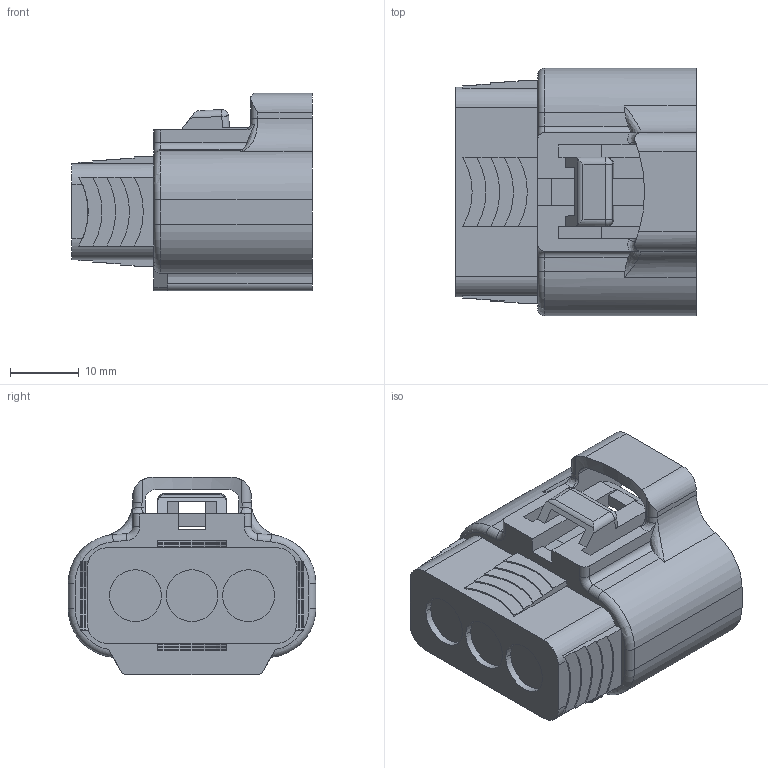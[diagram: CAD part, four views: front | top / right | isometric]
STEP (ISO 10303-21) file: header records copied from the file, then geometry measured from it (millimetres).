
FILE_DESCRIPTION(('CATIA V5 STEP Exchange'),'2;1');
FILE_NAME('N:\C-DAM_MyDesk\ENV\900093\6189-0165.stp','2013-10-08T08:38:26+00:00',('none'),('none'),'CATIA Version 5 Release 20 SP 4 (IN-10)','CATIA V5 STEP AP203','none');
FILE_SCHEMA(('CONFIG_CONTROL_DESIGN'));
Length unit declared in the file: millimetre
Products named in the file (1): 6189-0165
Bounding box: 34.9 x 35.9 x 28.6 mm (x, y, z)
Volume: 13980.4 mm3; surface area: 8294.5 mm2
Topology: 1 solids, 1 shells, 221 faces, 632 edges, 414 vertices
Faces by surface type: plane 114, cylinder 89, torus 12, bspline 4, sphere 2
Entity records: 7395 total; most frequent: CARTESIAN_POINT 1883, ORIENTED_EDGE 1260, DIRECTION 922, EDGE_CURVE 630, VERTEX_POINT 414, VECTOR 392, LINE 392, AXIS2_PLACEMENT_3D 355
